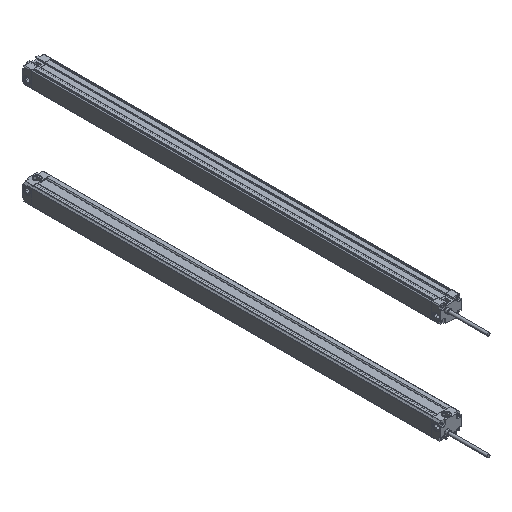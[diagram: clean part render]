
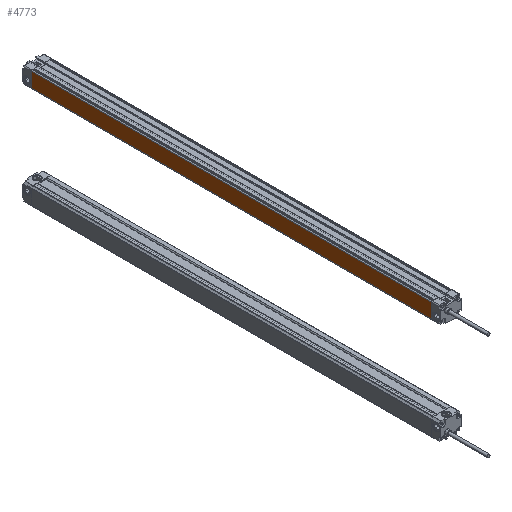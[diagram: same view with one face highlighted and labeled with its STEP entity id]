
A CAD part, isometric view. The second image highlights one B-rep face of the part: STEP entity #4773.
In plain terms, the highlighted planar face has unit normal (-1, 0, 0) as drawn and (1, 0, 0) by its records, which use the part's own axes.
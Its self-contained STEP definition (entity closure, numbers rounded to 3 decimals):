
#49 = CARTESIAN_POINT ( 'NONE',  ( 12.5, -480., 8.293 ) ) ;
#412 = EDGE_LOOP ( 'NONE', ( #7092, #8298, #7023, #10732 ) ) ;
#709 = DIRECTION ( 'NONE',  ( 0., 0., -1. ) ) ;
#1157 = CARTESIAN_POINT ( 'NONE',  ( 12.5, 0., 8.293 ) ) ;
#1689 = CARTESIAN_POINT ( 'NONE',  ( 12.5, -480., 8.293 ) ) ;
#1925 = EDGE_CURVE ( 'NONE', #7453, #8982, #7329, .T. ) ;
#2065 = CARTESIAN_POINT ( 'NONE',  ( 12.5, 0., -9.2 ) ) ;
#2244 = CARTESIAN_POINT ( 'NONE',  ( 12.5, -480., 8.293 ) ) ;
#2262 = CARTESIAN_POINT ( 'NONE',  ( 12.5, -480., -9.2 ) ) ;
#2597 = LINE ( 'NONE', #4720, #7853 ) ;
#2941 = LINE ( 'NONE', #4048, #9528 ) ;
#3430 = DIRECTION ( 'NONE',  ( 0., 1., 0. ) ) ;
#4048 = CARTESIAN_POINT ( 'NONE',  ( 12.5, -480., 8.293 ) ) ;
#4720 = CARTESIAN_POINT ( 'NONE',  ( 12.5, 0., 8.293 ) ) ;
#4773 = ADVANCED_FACE ( 'NONE', ( #4849 ), #5876, .T. ) ;
#4849 = FACE_OUTER_BOUND ( 'NONE', #412, .T. ) ;
#5075 = DIRECTION ( 'NONE',  ( 0., 0., -1. ) ) ;
#5282 = EDGE_CURVE ( 'NONE', #8982, #10440, #2597, .T. ) ;
#5464 = VECTOR ( 'NONE', #9740, 1000. ) ;
#5876 = PLANE ( 'NONE',  #6080 ) ;
#5940 = DIRECTION ( 'NONE',  ( 1., 0., 0. ) ) ;
#6080 = AXIS2_PLACEMENT_3D ( 'NONE', #1689, #5940, #5075 ) ;
#6158 = EDGE_CURVE ( 'NONE', #6712, #10440, #10885, .T. ) ;
#6712 = VERTEX_POINT ( 'NONE', #2262 ) ;
#7003 = EDGE_CURVE ( 'NONE', #7453, #6712, #2941, .T. ) ;
#7023 = ORIENTED_EDGE ( 'NONE', *, *, #7003, .T. ) ;
#7092 = ORIENTED_EDGE ( 'NONE', *, *, #5282, .F. ) ;
#7329 = LINE ( 'NONE', #49, #8485 ) ;
#7453 = VERTEX_POINT ( 'NONE', #2244 ) ;
#7853 = VECTOR ( 'NONE', #9774, 1000. ) ;
#8298 = ORIENTED_EDGE ( 'NONE', *, *, #1925, .F. ) ;
#8485 = VECTOR ( 'NONE', #3430, 1000. ) ;
#8982 = VERTEX_POINT ( 'NONE', #1157 ) ;
#9528 = VECTOR ( 'NONE', #709, 1000. ) ;
#9740 = DIRECTION ( 'NONE',  ( 0., 1., 0. ) ) ;
#9774 = DIRECTION ( 'NONE',  ( 0., 0., -1. ) ) ;
#9819 = CARTESIAN_POINT ( 'NONE',  ( 12.5, -480., -9.2 ) ) ;
#10440 = VERTEX_POINT ( 'NONE', #2065 ) ;
#10732 = ORIENTED_EDGE ( 'NONE', *, *, #6158, .T. ) ;
#10885 = LINE ( 'NONE', #9819, #5464 ) ;
